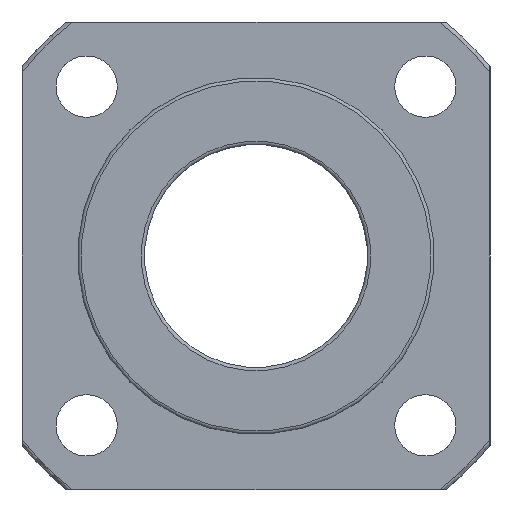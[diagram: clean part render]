
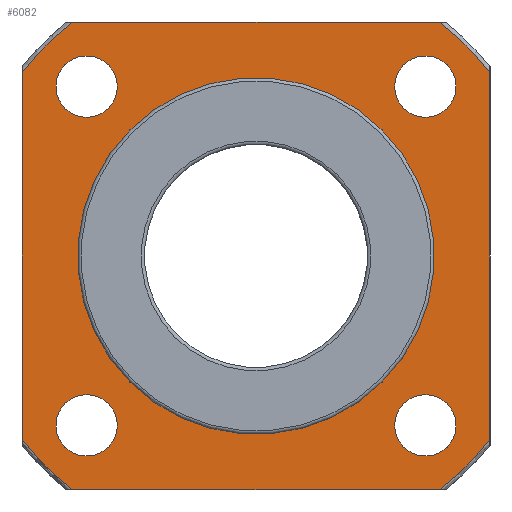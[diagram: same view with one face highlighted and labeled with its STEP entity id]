
A CAD part, left-side view. The second image highlights one B-rep face of the part: STEP entity #6082.
In plain terms, the highlighted planar face has unit normal (-1, 0, 0).
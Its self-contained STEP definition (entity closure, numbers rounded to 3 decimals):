
#124=CIRCLE('',#6462,26.68);
#125=CIRCLE('',#6464,26.68);
#126=CIRCLE('',#6466,26.68);
#129=CIRCLE('',#6473,26.68);
#130=CIRCLE('',#6475,2.75);
#131=CIRCLE('',#6476,2.75);
#132=CIRCLE('',#6477,2.75);
#133=CIRCLE('',#6478,2.75);
#134=CIRCLE('',#6479,16.);
#601=ORIENTED_EDGE('',*,*,#2350,.T.);
#602=ORIENTED_EDGE('',*,*,#2351,.T.);
#603=ORIENTED_EDGE('',*,*,#2352,.T.);
#604=ORIENTED_EDGE('',*,*,#2353,.T.);
#605=ORIENTED_EDGE('',*,*,#2354,.F.);
#606=ORIENTED_EDGE('',*,*,#2334,.T.);
#607=ORIENTED_EDGE('',*,*,#2355,.F.);
#608=ORIENTED_EDGE('',*,*,#2349,.T.);
#609=ORIENTED_EDGE('',*,*,#2356,.F.);
#610=ORIENTED_EDGE('',*,*,#2339,.T.);
#611=ORIENTED_EDGE('',*,*,#2357,.F.);
#612=ORIENTED_EDGE('',*,*,#2336,.T.);
#613=ORIENTED_EDGE('',*,*,#2358,.F.);
#2334=EDGE_CURVE('',#3208,#3209,#124,.T.);
#2336=EDGE_CURVE('',#3211,#3210,#125,.T.);
#2339=EDGE_CURVE('',#3214,#3212,#126,.T.);
#2349=EDGE_CURVE('',#3217,#3218,#129,.T.);
#2350=EDGE_CURVE('',#3219,#3219,#130,.T.);
#2351=EDGE_CURVE('',#3220,#3220,#131,.T.);
#2352=EDGE_CURVE('',#3221,#3221,#132,.T.);
#2353=EDGE_CURVE('',#3222,#3222,#133,.T.);
#2354=EDGE_CURVE('',#3208,#3210,#3740,.T.);
#2355=EDGE_CURVE('',#3217,#3209,#3741,.T.);
#2356=EDGE_CURVE('',#3214,#3218,#3742,.T.);
#2357=EDGE_CURVE('',#3211,#3212,#3743,.T.);
#2358=EDGE_CURVE('',#3223,#3223,#134,.T.);
#3208=VERTEX_POINT('',#9620);
#3209=VERTEX_POINT('',#9626);
#3210=VERTEX_POINT('',#9634);
#3211=VERTEX_POINT('',#9636);
#3212=VERTEX_POINT('',#9648);
#3214=VERTEX_POINT('',#9651);
#3217=VERTEX_POINT('',#9682);
#3218=VERTEX_POINT('',#9688);
#3219=VERTEX_POINT('',#9692);
#3220=VERTEX_POINT('',#9694);
#3221=VERTEX_POINT('',#9696);
#3222=VERTEX_POINT('',#9698);
#3223=VERTEX_POINT('',#9704);
#3740=LINE('',#9699,#4444);
#3741=LINE('',#9700,#4445);
#3742=LINE('',#9701,#4446);
#3743=LINE('',#9702,#4447);
#4444=VECTOR('',#7080,1000.);
#4445=VECTOR('',#7081,1000.);
#4446=VECTOR('',#7082,1000.);
#4447=VECTOR('',#7083,1000.);
#4990=EDGE_LOOP('',(#601));
#4991=EDGE_LOOP('',(#602));
#4992=EDGE_LOOP('',(#603));
#4993=EDGE_LOOP('',(#604));
#4994=EDGE_LOOP('',(#605,#606,#607,#608,#609,#610,#611,#612));
#4995=EDGE_LOOP('',(#613));
#5424=FACE_BOUND('',#4990,.T.);
#5425=FACE_BOUND('',#4991,.T.);
#5426=FACE_BOUND('',#4992,.T.);
#5427=FACE_BOUND('',#4993,.T.);
#5428=FACE_BOUND('',#4994,.T.);
#5429=FACE_BOUND('',#4995,.T.);
#5800=PLANE('',#6474);
#6082=ADVANCED_FACE('',(#5424,#5425,#5426,#5427,#5428,#5429),#5800,.F.);
#6462=AXIS2_PLACEMENT_3D('',#9627,#7044,#7045);
#6464=AXIS2_PLACEMENT_3D('',#9635,#7048,#7049);
#6466=AXIS2_PLACEMENT_3D('',#9650,#7052,#7053);
#6473=AXIS2_PLACEMENT_3D('',#9689,#7068,#7069);
#6474=AXIS2_PLACEMENT_3D('',#9690,#7070,#7071);
#6475=AXIS2_PLACEMENT_3D('',#9691,#7072,#7073);
#6476=AXIS2_PLACEMENT_3D('',#9693,#7074,#7075);
#6477=AXIS2_PLACEMENT_3D('',#9695,#7076,#7077);
#6478=AXIS2_PLACEMENT_3D('',#9697,#7078,#7079);
#6479=AXIS2_PLACEMENT_3D('',#9703,#7084,#7085);
#7044=DIRECTION('',(-1.,0.,0.));
#7045=DIRECTION('',(0.,-0.707,0.707));
#7048=DIRECTION('',(-1.,0.,0.));
#7049=DIRECTION('',(0.,-0.707,0.707));
#7052=DIRECTION('',(-1.,0.,0.));
#7053=DIRECTION('',(0.,-0.707,0.707));
#7068=DIRECTION('',(-1.,0.,0.));
#7069=DIRECTION('',(0.,-0.707,0.707));
#7070=DIRECTION('',(1.,0.,0.));
#7071=DIRECTION('',(0.,0.707,-0.707));
#7072=DIRECTION('',(1.,0.,0.));
#7073=DIRECTION('',(0.,0.707,-0.707));
#7074=DIRECTION('',(1.,0.,0.));
#7075=DIRECTION('',(0.,0.707,-0.707));
#7076=DIRECTION('',(1.,0.,0.));
#7077=DIRECTION('',(0.,0.707,-0.707));
#7078=DIRECTION('',(1.,0.,0.));
#7079=DIRECTION('',(0.,0.707,-0.707));
#7080=DIRECTION('',(0.,0.,-1.));
#7081=DIRECTION('',(0.,-1.,0.));
#7082=DIRECTION('',(0.,0.,1.));
#7083=DIRECTION('',(0.,1.,0.));
#7084=DIRECTION('',(-1.,0.,0.));
#7085=DIRECTION('',(0.,-0.707,0.707));
#9620=CARTESIAN_POINT('',(-8.,-21.,16.457));
#9626=CARTESIAN_POINT('',(-8.,-16.457,21.));
#9627=CARTESIAN_POINT('',(-8.,0.,0.));
#9634=CARTESIAN_POINT('',(-8.,-21.,-16.457));
#9635=CARTESIAN_POINT('',(-8.,0.,0.));
#9636=CARTESIAN_POINT('',(-8.,-16.457,-21.));
#9648=CARTESIAN_POINT('',(-8.,16.457,-21.));
#9650=CARTESIAN_POINT('',(-8.,0.,0.));
#9651=CARTESIAN_POINT('',(-8.,21.,-16.457));
#9682=CARTESIAN_POINT('',(-8.,16.457,21.));
#9688=CARTESIAN_POINT('',(-8.,21.,16.457));
#9689=CARTESIAN_POINT('',(-8.,0.,0.));
#9690=CARTESIAN_POINT('',(-8.,18.866,18.866));
#9691=CARTESIAN_POINT('',(-8.,15.203,-15.203));
#9692=CARTESIAN_POINT('',(-8.,17.147,-17.147));
#9693=CARTESIAN_POINT('',(-8.,-15.203,-15.203));
#9694=CARTESIAN_POINT('',(-8.,-13.258,-17.147));
#9695=CARTESIAN_POINT('',(-8.,-15.203,15.203));
#9696=CARTESIAN_POINT('',(-8.,-13.258,13.258));
#9697=CARTESIAN_POINT('',(-8.,15.203,15.203));
#9698=CARTESIAN_POINT('',(-8.,17.147,13.258));
#9699=CARTESIAN_POINT('',(-8.,-21.,18.866));
#9700=CARTESIAN_POINT('',(-8.,18.866,21.));
#9701=CARTESIAN_POINT('',(-8.,21.,18.866));
#9702=CARTESIAN_POINT('',(-8.,18.866,-21.));
#9703=CARTESIAN_POINT('',(-8.,0.,0.));
#9704=CARTESIAN_POINT('',(-8.,-11.314,11.314));
